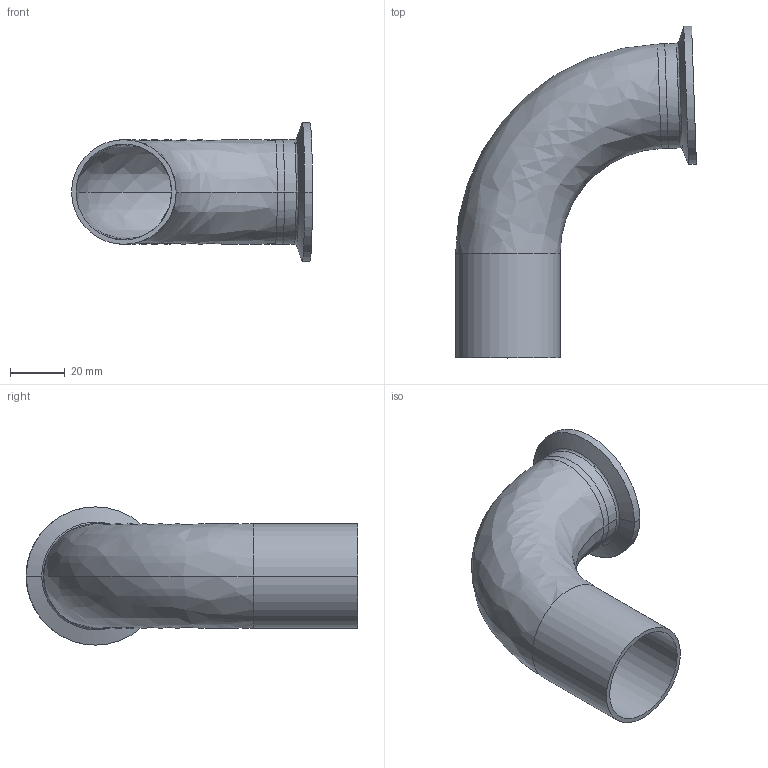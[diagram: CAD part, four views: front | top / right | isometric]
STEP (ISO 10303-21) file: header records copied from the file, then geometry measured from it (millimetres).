
FILE_DESCRIPTION (( 'STEP AP214' ), '1' );
FILE_NAME ('TE2C886L1.5-...STEP', '2016-05-22T07:56:40', ( 'eran' ), ( '' ), 'SwSTEP 2.0', 'SolidWorks 2016', '' );
FILE_SCHEMA (( 'AUTOMOTIVE_DESIGN' ));
Length unit declared in the file: millimetre
Products named in the file (1): TE2C886L1.5-..
Bounding box: 87.75 x 120.94 x 50.39 mm (x, y, z)
Volume: 29362.9 mm3; surface area: 34149.4 mm2
Topology: 2 solids, 2 shells, 39 faces, 92 edges, 58 vertices
Faces by surface type: bspline 14, cylinder 14, cone 6, plane 5
Entity records: 1769 total; most frequent: CARTESIAN_POINT 826, DIRECTION 204, ORIENTED_EDGE 184, EDGE_CURVE 92, AXIS2_PLACEMENT_3D 92, CIRCLE 66, VERTEX_POINT 58, EDGE_LOOP 44
